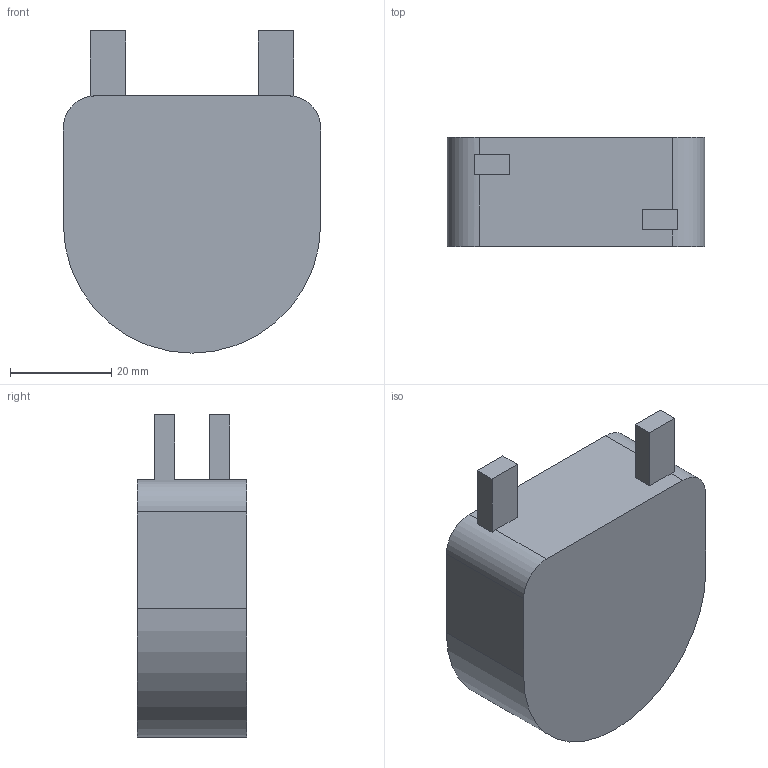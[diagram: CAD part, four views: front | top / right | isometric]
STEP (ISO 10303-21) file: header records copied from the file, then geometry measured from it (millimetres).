
FILE_DESCRIPTION (( 'STEP AP214' ), '1' );
FILE_NAME ('IHXL2000VZEB1R2M3A.STEP', '2025-08-07T21:22:55', ( '' ), ( '' ), 'SwSTEP 2.0', 'SolidWorks 2024', '' );
FILE_SCHEMA (( 'AUTOMOTIVE_DESIGN' ));
Length unit declared in the file: inch
Products named in the file (1): IHXL2000VZEB1R2M3A
Bounding box: 50.8 x 21.59 x 63.63 mm (x, y, z)
Volume: 50088.6 mm3; surface area: 8939.2 mm2
Topology: 1 solids, 1 shells, 19 faces, 51 edges, 34 vertices
Faces by surface type: plane 15, cylinder 4
Entity records: 624 total; most frequent: CARTESIAN_POINT 105, DIRECTION 103, ORIENTED_EDGE 102, EDGE_CURVE 51, LINE 39, VECTOR 39, VERTEX_POINT 34, AXIS2_PLACEMENT_3D 32
